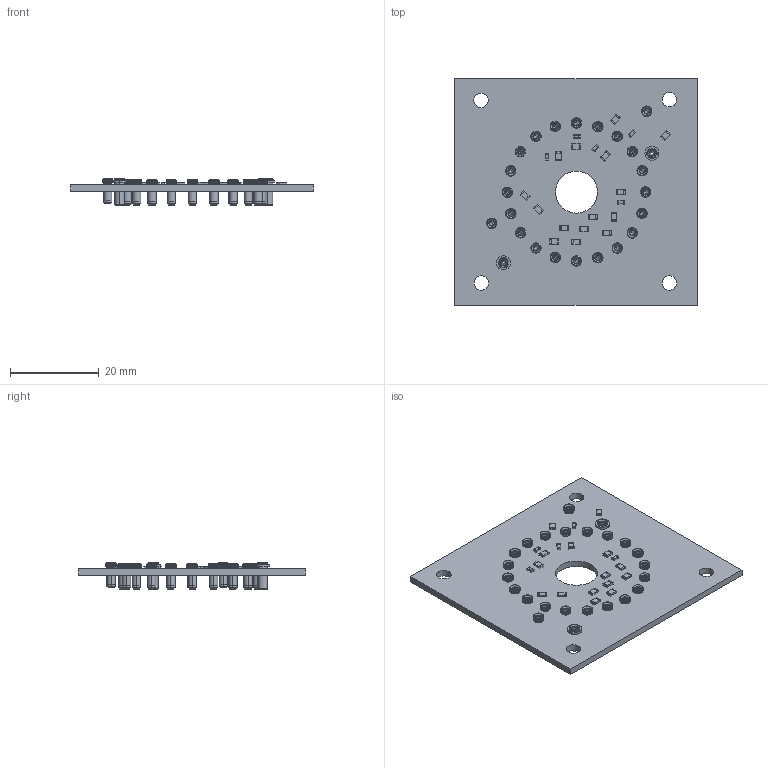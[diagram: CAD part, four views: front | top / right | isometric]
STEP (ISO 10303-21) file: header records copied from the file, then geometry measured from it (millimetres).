
FILE_DESCRIPTION(('KiCad electronic assembly'),'2;1');
FILE_NAME('r11410-20a-square.step','2026-07-30T09:38:37',('Pcbnew'),( 'Kicad'),'Open CASCADE STEP processor 7.9','KiCad to STEP converter' ,'Unknown');
FILE_SCHEMA(('AUTOMOTIVE_DESIGN { 1 0 10303 214 1 1 1 1 }'));
Length unit declared in the file: millimetre
Products named in the file (20): r11410-20a-square 1; CRCW08057M50FKEA; 126151; CGA3E1C0G2A103J080AC; CGA3E3X7R1H105K080AB; CRCW080549R9FKEA; H8504-05; H8504-XX_ASM; H8010-XX; Y3196; CRCW08054M99FKEA; H3185-05; H3185-XX_ASM; H3459-XX; R_0805_2012Metric; r11410-20a-base_PCB
Assembly tree (56 placements, depth 4):
  r11410-20a-square 1
    CRCW08057M50FKEA  x3
      126151
    CGA3E1C0G2A103J080AC  x5
      CGA3E3X7R1H105K080AB
    CRCW080549R9FKEA
      126151
    H8504-05  x22
      H8504-XX_ASM
        H8010-XX
        Y3196
    CRCW08054M99FKEA  x7
      126151
    H3185-05  x2
      H3185-XX_ASM
        H3459-XX
        Y3196
    R_0805_2012Metric  x4
      R_0805_2012Metric
    r11410-20a-base_PCB
Bounding box: 54.81 x 51.29 x 6 mm (x, y, z)
Volume: 4209.6 mm3; surface area: 8175.7 mm2
Topology: 69 solids, 69 shells, 2123 faces, 5135 edges, 3124 vertices
Faces by surface type: plane 806, bspline 576, cylinder 401, cone 296, sphere 40, torus 4
Full cylindrical faces by diameter (mm): 2.01 x22, 2.29 x2, 3.27 x4, 9.5 x1
Entity records: 11221 total; most frequent: CARTESIAN_POINT 3113, DIRECTION 1515, ORIENTED_EDGE 1506, EDGE_CURVE 753, AXIS2_PLACEMENT_3D 519, VERTEX_POINT 477, LINE 477, VECTOR 477
